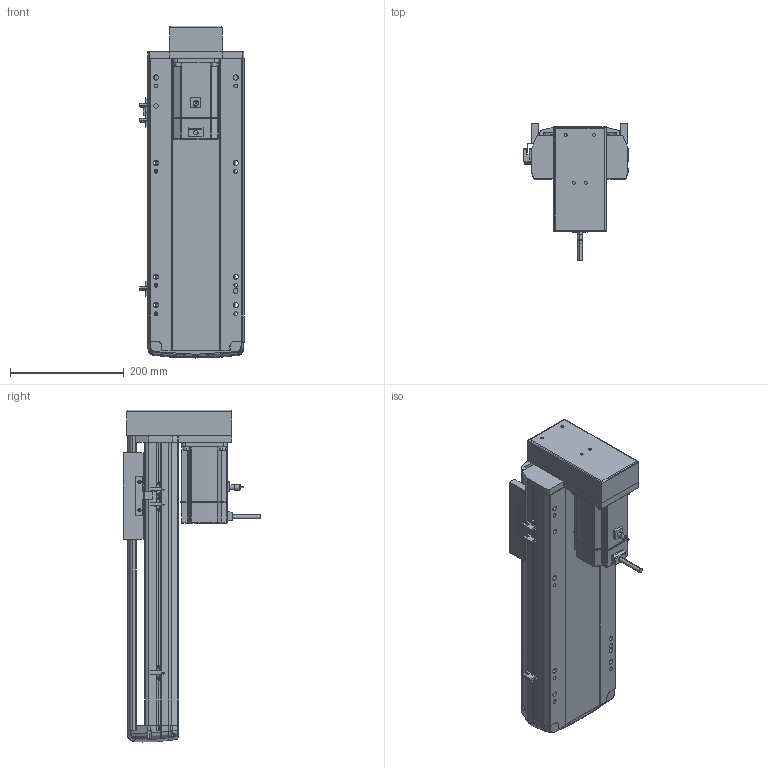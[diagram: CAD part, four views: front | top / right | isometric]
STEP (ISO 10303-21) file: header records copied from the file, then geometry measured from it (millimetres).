
FILE_DESCRIPTION (( 'STEP AP214' ), '1' );
FILE_NAME ('RTH17-XX-300-M-M75-C4.STEP', '2025-10-24T10:22:33', ( '' ), ( '' ), 'SwSTEP 2.0', 'SolidWorks 2018', '' );
FILE_SCHEMA (( 'AUTOMOTIVE_DESIGN' ));
Length unit declared in the file: millimetre
Products named in the file (10): N_RTH17-M-008-P75电机安装板下折750W^RTH17-XX-XX-M-M75-C4（方程式）; N_RTH17-M-007上盖^RTH17-XX-XX-M-M75-C4（方程式）; N_RTH17-GY-001P^RTH17-XX-XX-M-M75-C4（方程式）; N_RTH17-M-011底座^RTH17-XX-XX-M-M75-C4（方程式）; N_RTH17-E-004丝杆螺母连接座^RTH17-XX-XX-M-M75-C4（方程式）; RTH17-XX-300-M-M75-C4; N_OMRON EE-SX672 換覜ん^RTH17-XX-XX-M-M75-C4ㄗ源最宒ㄘ; N_RTH17-M-018盖子^RTH17-XX-XX-M-M75-C4（方程式）; N_RTH-BL-012 感应片(外置)^RTH17-XX-XX-M-M75-C4（方程式）; N_M75^RTH17-XX-XX-M-M75-C4（方程式）
Assembly tree (11 placements, depth 2):
  RTH17-XX-300-M-M75-C4
    N_RTH17-M-011底座^RTH17-XX-XX-M-M75-C4（方程式）
    N_RTH17-M-007上盖^RTH17-XX-XX-M-M75-C4（方程式）
    N_M75^RTH17-XX-XX-M-M75-C4（方程式）
    N_OMRON EE-SX672 換覜ん^RTH17-XX-XX-M-M75-C4ㄗ源最宒ㄘ  x3
    N_RTH-BL-012 感应片(外置)^RTH17-XX-XX-M-M75-C4（方程式）
    N_RTH17-M-008-P75电机安装板下折750W^RTH17-XX-XX-M-M75-C4（方程式）
    N_RTH17-M-018盖子^RTH17-XX-XX-M-M75-C4（方程式）
    N_RTH17-E-004丝杆螺母连接座^RTH17-XX-XX-M-M75-C4（方程式）
    N_RTH17-GY-001P^RTH17-XX-XX-M-M75-C4（方程式）
Bounding box: 183.5 x 240.7 x 583.27 mm (x, y, z)
Volume: 5419422.7 mm3; surface area: 809149.1 mm2
Topology: 10 solids, 12 shells, 1725 faces, 4742 edges, 3068 vertices
Faces by surface type: plane 826, cylinder 485, bspline 377, cone 28, torus 9
Entity records: 49931 total; most frequent: CARTESIAN_POINT 20012, ORIENTED_EDGE 6508, DIRECTION 5404, EDGE_CURVE 3258, VERTEX_POINT 2104, AXIS2_PLACEMENT_3D 1807, VECTOR 1790, LINE 1790
